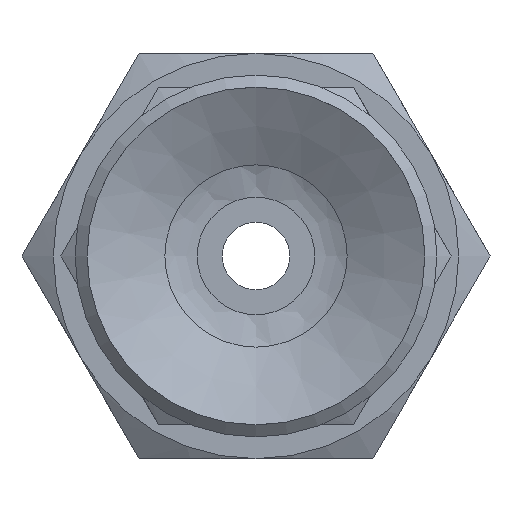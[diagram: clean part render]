
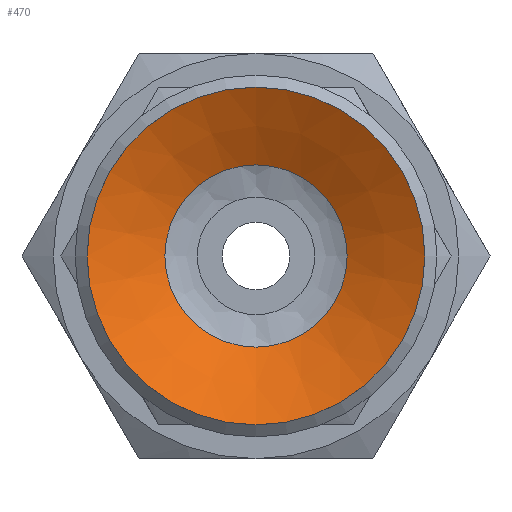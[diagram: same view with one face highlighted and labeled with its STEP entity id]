
A CAD part, front view. The second image highlights one B-rep face of the part: STEP entity #470.
In plain terms, the highlighted conical face has half-angle 61.39 degrees and reference radius 2.25 mm.
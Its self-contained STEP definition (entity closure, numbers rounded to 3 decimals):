
#470=ADVANCED_FACE('',(#668,#669),#670,.F.);
#668=FACE_BOUND('',#899,.T.);
#669=FACE_OUTER_BOUND('',#900,.T.);
#670=CONICAL_SURFACE('',#901,2.25,1.071);
#899=EDGE_LOOP('',(#1459));
#900=EDGE_LOOP('',(#1460));
#901=AXIS2_PLACEMENT_3D('',#1461,#1462,#1463);
#1459=ORIENTED_EDGE('',*,*,#1671,.T.);
#1460=ORIENTED_EDGE('',*,*,#1672,.T.);
#1461=CARTESIAN_POINT('',(0.0,1.5,0.0));
#1462=DIRECTION('',(-0.0,-1.0,0.));
#1463=DIRECTION('',(0.0,0.,-1.0));
#1671=EDGE_CURVE('',#1906,#1906,#1907,.T.);
#1672=EDGE_CURVE('',#1908,#1908,#1909,.T.);
#1906=VERTEX_POINT('',#2466);
#1907=CIRCLE('',#2467,2.698);
#1908=VERTEX_POINT('',#2468);
#1909=CIRCLE('',#2469,5.);
#2466=CARTESIAN_POINT('',(0.0,1.256,-2.698));
#2467=AXIS2_PLACEMENT_3D('',#2698,#2699,#2700);
#2468=CARTESIAN_POINT('',(0.0,0.,-5.));
#2469=AXIS2_PLACEMENT_3D('',#2701,#2702,#2703);
#2698=CARTESIAN_POINT('',(0.0,1.256,0.0));
#2699=DIRECTION('',(0.0,1.0,0.));
#2700=DIRECTION('',(0.0,0.,-1.0));
#2701=CARTESIAN_POINT('',(0.0,0.0,0.0));
#2702=DIRECTION('',(0.0,-1.0,0.));
#2703=DIRECTION('',(0.0,0.,-1.0));
